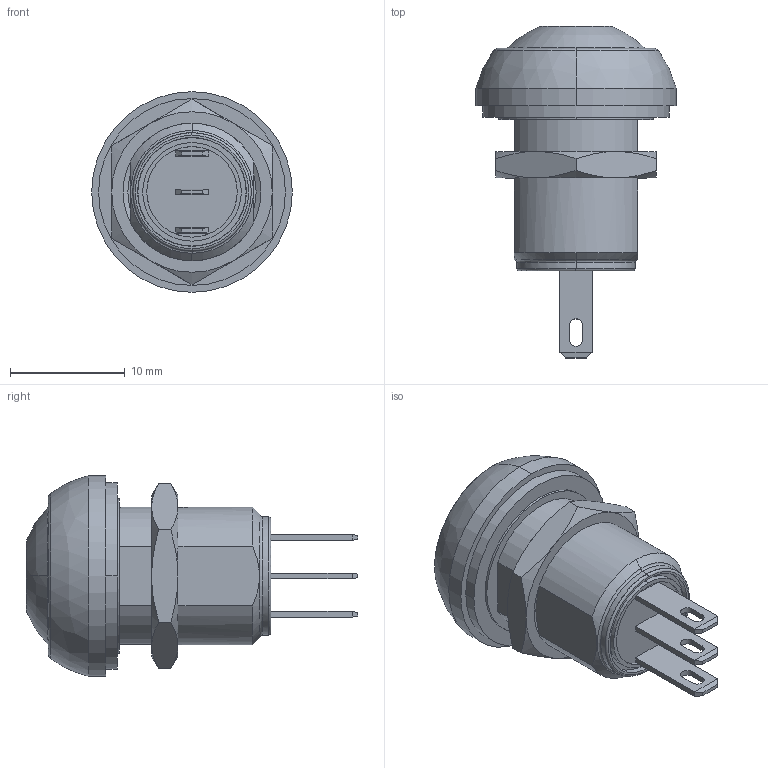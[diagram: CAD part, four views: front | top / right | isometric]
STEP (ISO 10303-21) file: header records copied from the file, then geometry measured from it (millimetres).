
FILE_DESCRIPTION((''),'2;1');
FILE_NAME('IMR7ZAD22_SW0001','2012-06-01T',('snouilhan'),(''),'PRO/ENGINEER BY PARAMETRIC TECHNOLOGY CORPORATION, 2011250','PRO/ENGINEER BY PARAMETRIC TECHNOLOGY CORPORATION, 2011250','');
FILE_SCHEMA(('CONFIG_CONTROL_DESIGN'));
Length unit declared in the file: millimetre
Products named in the file (1): IMR7ZAD22_SW0001
Bounding box: 17.5 x 28.95 x 17.5 mm (x, y, z)
Volume: 2119.8 mm3; surface area: 3162.4 mm2
Topology: 2 solids, 2 shells, 350 faces, 953 edges, 603 vertices
Faces by surface type: plane 248, cylinder 56, cone 28, torus 10, bspline 4, sphere 4
Entity records: 11457 total; most frequent: CARTESIAN_POINT 2539, ORIENTED_EDGE 1902, DIRECTION 1771, EDGE_CURVE 951, VECTOR 681, LINE 681, VERTEX_POINT 603, AXIS2_PLACEMENT_3D 545
